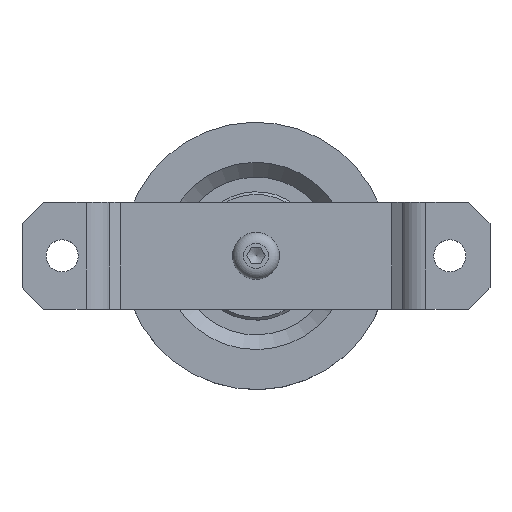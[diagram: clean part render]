
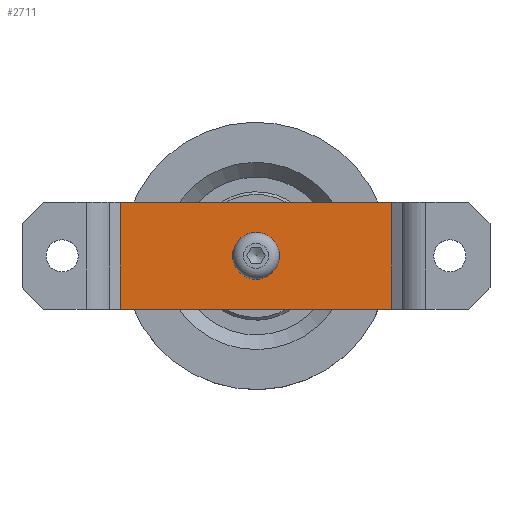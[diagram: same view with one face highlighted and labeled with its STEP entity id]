
A CAD part, top view. The second image highlights one B-rep face of the part: STEP entity #2711.
In plain terms, the highlighted planar face has unit normal (0, 0, 1).
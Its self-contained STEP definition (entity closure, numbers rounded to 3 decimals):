
#149=FACE_BOUND('',#693,.T.);
#290=CIRCLE('',#3125,5.5);
#525=FACE_OUTER_BOUND('',#692,.T.);
#692=EDGE_LOOP('',(#2084,#2085,#2086,#2087));
#693=EDGE_LOOP('',(#2088));
#931=LINE('',#4590,#1096);
#935=LINE('',#4598,#1100);
#938=LINE('',#4604,#1103);
#941=LINE('',#4609,#1106);
#1096=VECTOR('',#3705,10.);
#1100=VECTOR('',#3711,10.);
#1103=VECTOR('',#3716,10.);
#1106=VECTOR('',#3721,10.);
#1231=VERTEX_POINT('',#4582);
#1233=VERTEX_POINT('',#4588);
#1234=VERTEX_POINT('',#4589);
#1237=VERTEX_POINT('',#4597);
#1239=VERTEX_POINT('',#4603);
#1554=EDGE_CURVE('',#1231,#1231,#290,.T.);
#1557=EDGE_CURVE('',#1233,#1234,#931,.T.);
#1561=EDGE_CURVE('',#1234,#1237,#935,.T.);
#1564=EDGE_CURVE('',#1237,#1239,#938,.T.);
#1567=EDGE_CURVE('',#1239,#1233,#941,.T.);
#2084=ORIENTED_EDGE('',*,*,#1557,.F.);
#2085=ORIENTED_EDGE('',*,*,#1567,.F.);
#2086=ORIENTED_EDGE('',*,*,#1564,.F.);
#2087=ORIENTED_EDGE('',*,*,#1561,.F.);
#2088=ORIENTED_EDGE('',*,*,#1554,.T.);
#2608=PLANE('',#3131);
#2711=ADVANCED_FACE('',(#525,#149),#2608,.T.);
#3125=AXIS2_PLACEMENT_3D('',#4583,#3698,#3699);
#3131=AXIS2_PLACEMENT_3D('',#4611,#3723,#3724);
#3698=DIRECTION('center_axis',(0.,0.,-1.));
#3699=DIRECTION('ref_axis',(-1.,0.,0.));
#3705=DIRECTION('',(0.,-1.,0.));
#3711=DIRECTION('',(-1.,0.,0.));
#3716=DIRECTION('',(0.,1.,0.));
#3721=DIRECTION('',(1.,0.,0.));
#3723=DIRECTION('center_axis',(0.,0.,1.));
#3724=DIRECTION('ref_axis',(1.,0.,0.));
#4582=CARTESIAN_POINT('',(5.5,0.,5.));
#4583=CARTESIAN_POINT('Origin',(0.,0.,5.));
#4588=CARTESIAN_POINT('',(53.,20.,5.));
#4589=CARTESIAN_POINT('',(53.,-20.,5.));
#4590=CARTESIAN_POINT('',(53.,20.,5.));
#4597=CARTESIAN_POINT('',(-53.,-20.,5.));
#4598=CARTESIAN_POINT('',(53.,-20.,5.));
#4603=CARTESIAN_POINT('',(-53.,20.,5.));
#4604=CARTESIAN_POINT('',(-53.,-20.,5.));
#4609=CARTESIAN_POINT('',(-53.,20.,5.));
#4611=CARTESIAN_POINT('Origin',(0.,0.,5.));
